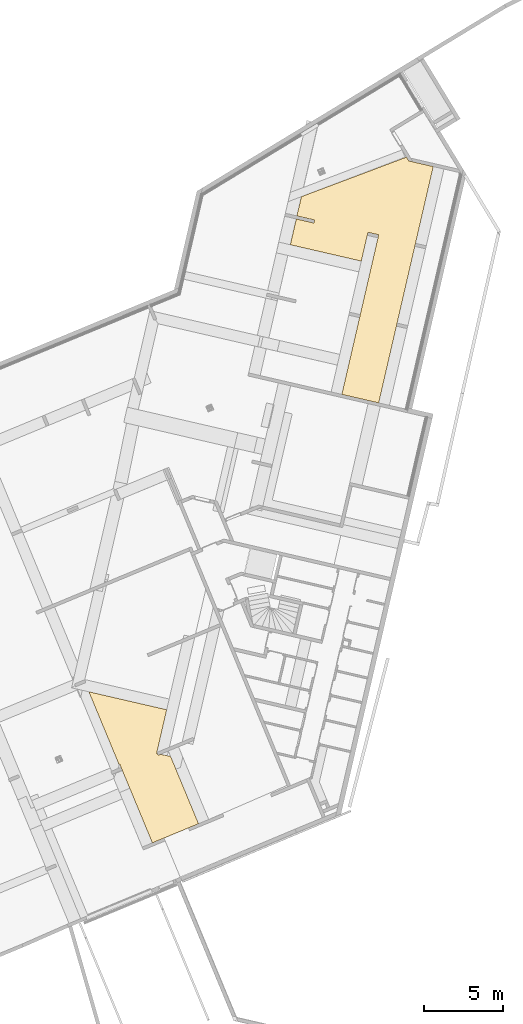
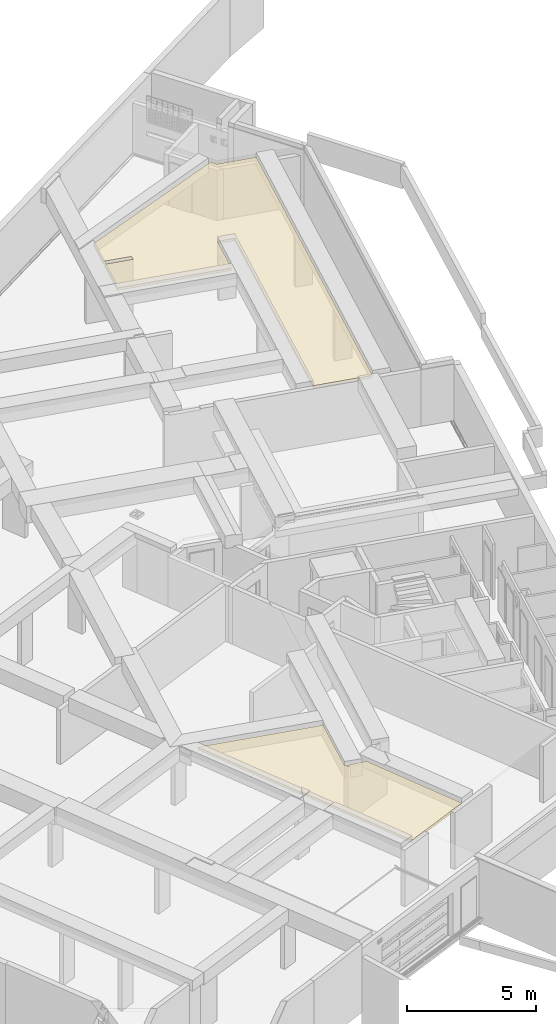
# One storey, part 14 of 20: 2 coverings.
"""IFC2X3 building model written with IfcOpenShell, lengths in metres."""

from ifc_helpers import new_model, entity, si_unit, converted_unit, derived_unit, money_unit, direction, frame, origin_with_axes, place, context, subcontext, project, spatial, faceted_brep, material, type_object, element, save


model = new_model("IFC2X3")

# Units and contexts
model_context = context("Model", 3, precision=1e-05, world=origin_with_axes(), true_north=direction((0.0, 1.0)))
body_context = subcontext(model_context, "Body", "Model", "MODEL_VIEW")
ifc_project = project(units=[si_unit("LENGTHUNIT", "METRE"), si_unit("AREAUNIT", "SQUARE_METRE"), si_unit("VOLUMEUNIT", "CUBIC_METRE"), converted_unit("PLANEANGLEUNIT", "DEGREE", entity("IfcPlaneAngleMeasure", 0.0174532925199), si_unit("PLANEANGLEUNIT", "RADIAN"), dimensions=[0, 0, 0, 0, 0, 0, 0]), si_unit("SOLIDANGLEUNIT", "STERADIAN"), money_unit("EUR"), converted_unit("TIMEUNIT", "Year", entity("IfcTimeMeasure", 31556926.0), si_unit("TIMEUNIT", "SECOND"), dimensions=[0, 0, 1, 0, 0, 0, 0]), si_unit("MASSUNIT", "GRAM", prefix="KILO"), si_unit("THERMODYNAMICTEMPERATUREUNIT", "DEGREE_CELSIUS"), si_unit("LUMINOUSINTENSITYUNIT", "LUMEN"), si_unit("ENERGYUNIT", "JOULE", prefix="MEGA"), derived_unit("THERMALCONDUCTANCEUNIT", [(si_unit("POWERUNIT", "WATT"), 1), (si_unit("LENGTHUNIT", "METRE"), -1), (si_unit("THERMODYNAMICTEMPERATUREUNIT", "KELVIN"), -1)]), derived_unit("SPECIFICHEATCAPACITYUNIT", [(si_unit("ENERGYUNIT", "JOULE"), 1), (si_unit("MASSUNIT", "GRAM", prefix="KILO"), -1), (si_unit("THERMODYNAMICTEMPERATUREUNIT", "KELVIN"), -1)]), derived_unit("MASSDENSITYUNIT", [(si_unit("MASSUNIT", "GRAM", prefix="KILO"), 1), (si_unit("VOLUMEUNIT", "CUBIC_METRE"), -1)])], contexts=[model_context])

# Site, building, storey
site_placement = place(None, origin_with_axes())
site = spatial("IfcSite", under=ifc_project, at=site_placement, Name="Site", CompositionType="ELEMENT")
building_placement = place(site_placement, origin_with_axes())
building = spatial("IfcBuilding", under=site, at=building_placement, Name="Bâtiment", CompositionType="ELEMENT")
storey_placement = place(building_placement, frame((0.0, 0.0, -2.9), z_axis=(0.0, 0.0, 1.0), x_axis=(1.0, 0.0, 0.0)))
storey = spatial("IfcBuildingStorey", under=building, at=storey_placement, Name="Sous-sol", CompositionType="ELEMENT", Elevation=-2.9)

# Coverings
ifc_material = material(Name="Isolation - FLOCAGE")
covering_type = type_object("IfcCoveringType", Name="Isolation - FLOCAGE 120", PredefinedType="CEILING")
covering_1_placement = place(storey_placement, frame((-19.5061216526, -13.5409179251, 2.67), z_axis=(0.0, 0.0, 1.0), x_axis=(1.0, 0.0, 0.0)))
element("IfcCovering", 1, at=covering_1_placement, inside=storey, type_object=covering_type, material=ifc_material, Name="Flocage thermique 120mm", PredefinedType="CEILING", context=body_context, shape_type="Brep", body=[
    faceted_brep([(0.0, 0.0, 0.0), (0.0, 0.0, -0.12), (1.91321171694, -4.61283997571, -0.12), (1.91321171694, -4.61283997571, 0.0), (4.94259644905, -1.14068836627, 0.0), (4.94259644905, -1.14068836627, -0.12), (4.30298266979, -3.9132809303, -0.12), (4.36260257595, -3.93853554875, -0.12), (4.40091383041, -4.03090571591, -0.12), (4.54811270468, -3.96985382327, -0.12), (5.18950823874, -4.09915101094, -0.12), (6.96517408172, -8.38036166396, -0.12), (4.03415666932, -9.59602422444, -0.12), (1.95939680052, -4.59368434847, -0.12), (1.95939680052, -4.59368434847, 0.0), (4.03415666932, -9.59602422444, 0.0), (6.96517408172, -8.38036166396, 0.0), (5.18950823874, -4.09915101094, 0.0), (4.54811270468, -3.96985382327, 0.0), (4.40091383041, -4.03090571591, 0.0), (4.36260257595, -3.93853554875, 0.0), (4.30298266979, -3.9132809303, 0.0)], [[[0, 1, 2, 3]], [[4, 5, 1, 0]], [[2, 1, 5, 6, 7, 8, 9, 10, 11, 12, 13]], [[3, 2, 13, 14]], [[4, 0, 3, 14, 15, 16, 17, 18, 19, 20, 21]], [[21, 6, 5, 4]], [[20, 7, 6, 21]], [[19, 8, 7, 20]], [[18, 9, 8, 19]], [[17, 10, 9, 18]], [[16, 11, 10, 17]], [[15, 12, 11, 16]], [[14, 13, 12, 15]]]),
])
covering_2_placement = place(storey_placement, frame((-3.43434334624, 5.35236466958, 2.67), z_axis=(0.0, 0.0, 1.0), x_axis=(1.0, 0.0, 0.0)))
element("IfcCovering", 2, at=covering_2_placement, inside=storey, type_object=covering_type, material=ifc_material, Name="Flocage thermique 120mm", PredefinedType="CEILING", context=body_context, shape_type="Brep", body=[
    faceted_brep([(0.0, 0.0, 0.0), (0.0, 0.0, -0.12), (2.3394384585, -0.53991262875, -0.12), (2.3394384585, -0.53991262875, 0.0), (2.3402866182, 10.1404490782, 0.0), (2.3402866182, 10.1404490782, -0.12), (1.6582154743, 10.2978624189, -0.12), (1.23538555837, 8.46574270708, -0.12), (-3.27328523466, 9.50628655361, -0.12), (-2.89543055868, 11.1435287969, -0.12), (-1.77329102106, 10.8845532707, -0.12), (-1.7283157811, 11.0794307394, -0.12), (-2.8572946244, 11.3392028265, -0.12), (-2.56753093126, 12.5643160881, -0.12), (4.10416087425, 15.0723425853, -0.12), (4.25088675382, 14.8309364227, -0.12), (5.80410607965, 14.4724731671, -0.12), (5.80410607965, 14.4724731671, 0.0), (4.25088675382, 14.8309364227, 0.0), (4.10416087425, 15.0723425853, 0.0), (-2.56753093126, 12.5643160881, 0.0), (-2.8572946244, 11.3392028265, 0.0), (-1.7283157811, 11.0794307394, 0.0), (-1.77329102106, 10.8845532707, 0.0), (-2.89543055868, 11.1435287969, 0.0), (-3.27328523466, 9.50628655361, 0.0), (1.23538555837, 8.46574270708, 0.0), (1.6582154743, 10.2978624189, 0.0)], [[[0, 1, 2, 3]], [[4, 5, 1, 0]], [[2, 1, 5, 6, 7, 8, 9, 10, 11, 12, 13, 14, 15, 16]], [[3, 2, 16, 17]], [[4, 0, 3, 17, 18, 19, 20, 21, 22, 23, 24, 25, 26, 27]], [[27, 6, 5, 4]], [[26, 7, 6, 27]], [[25, 8, 7, 26]], [[24, 9, 8, 25]], [[23, 10, 9, 24]], [[22, 11, 10, 23]], [[21, 12, 11, 22]], [[20, 13, 12, 21]], [[19, 14, 13, 20]], [[18, 15, 14, 19]], [[17, 16, 15, 18]]]),
])

save(model, "model.ifc")
